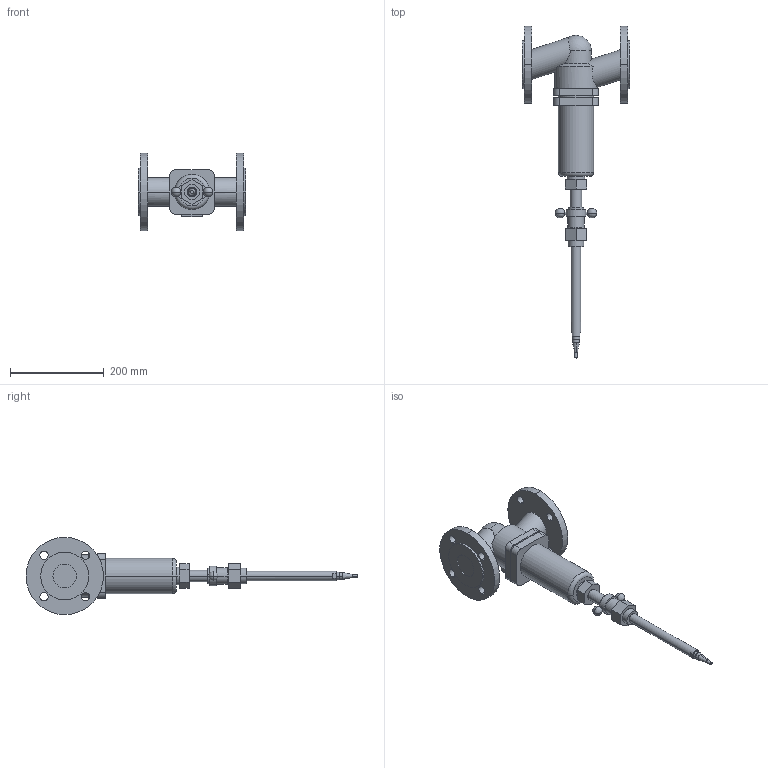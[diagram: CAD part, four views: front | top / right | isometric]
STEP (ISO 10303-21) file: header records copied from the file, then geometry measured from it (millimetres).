
FILE_DESCRIPTION(('CoCreate Modeling STEP Export'),'2;1');
FILE_NAME('c000001241.stp','2011-09-21T 9:19:37',(''),(''),'CoCreate Modeling STEP processor for AP214 (Solid Model)','CoCreate Modeling 17.0 01-Apr-2010 (C) Parametric Technology GmbH','');
FILE_SCHEMA(('AUTOMOTIVE_DESIGN { 1 0 10303 214 1 1 1 1 }'));
Length unit declared in the file: millimetre
Products named in the file (1): 1
Bounding box: 230 x 707.55 x 165 mm (x, y, z)
Volume: 2815061.6 mm3; surface area: 257555.3 mm2
Topology: 1 solids, 1 shells, 154 faces, 384 edges, 247 vertices
Faces by surface type: cylinder 74, plane 64, sphere 10, cone 4, torus 2
Entity records: 7659 total; most frequent: CARTESIAN_POINT 3054, ORIENTED_EDGE 748, DIRECTION 609, EDGE_CURVE 374, VERTEX_POINT 247, AXIS2_PLACEMENT_3D 216, EDGE_LOOP 195, VECTOR 177
